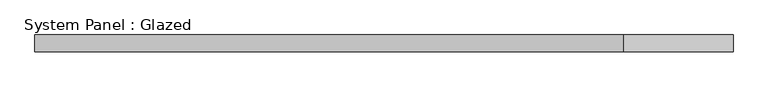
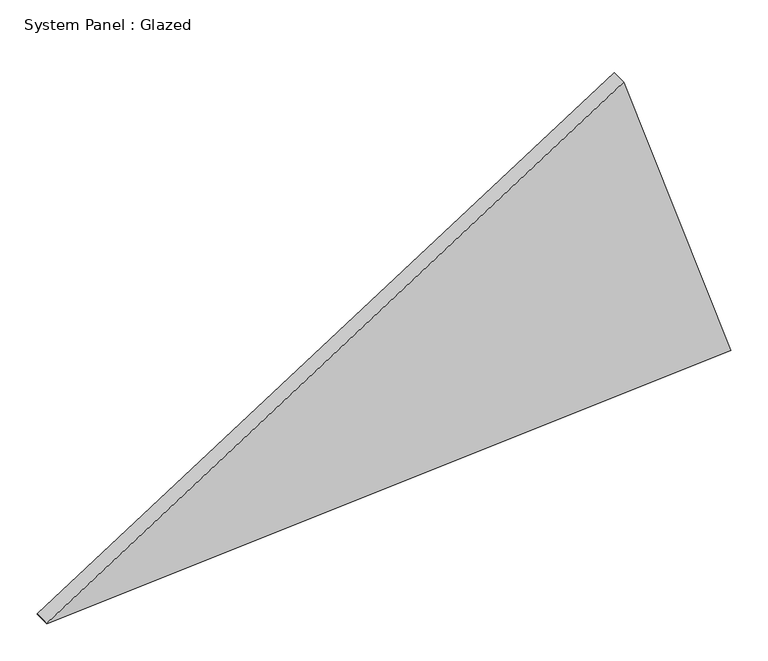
"""IFC4 building model written with IfcOpenShell, lengths in millimetres: plate geometry, System Panel : Glazed."""

from ifc_helpers import new_model, si_unit, frame, origin, place, context, project, spatial, polyline, outline, extrude, source, transform, mapped, element, save


def system_panel_glazed_8d16cfce(model_context):
    return source(origin(), model_context, "Body", "SweptSolid", [
        extrude(outline(polyline([(1.192782, -530.9360488), (0.0, -530.5386661), (77.0805744, 530.9360488), (576.1275748, 364.6754571), (1.192782, -530.9360488)])), frame((0.0, -44.45, 0.0), z_axis=(0.0, 1.0, 0.0), x_axis=(0.0, 0.0, 1.0)), (0.0, 0.0, 1.0), 25.4),
    ])


if __name__ == "__main__":
    model = new_model("IFC4")
    model_context = context("Model", 3, world=origin())
    ifc_project = project(units=[si_unit("LENGTHUNIT", "METRE", prefix="MILLI")], contexts=[model_context])
    site = spatial("IfcSite", under=ifc_project)
    building = spatial("IfcBuilding", under=site)
    placement = place(None, origin())
    system_panel_glazed_shape = system_panel_glazed_8d16cfce(model_context)
    element("IfcPlate", 1, ObjectType="System Panel : Glazed", at=placement, inside=building, context=model_context, shape_type="MappedRepresentation", body=[
        mapped(system_panel_glazed_shape, transform((0.0, 0.0, 0.0), x_axis=(1.0, 0.0, 0.0), y_axis=(0.0, 1.0, 0.0), z_axis=(0.0, 0.0, 1.0))),
    ])
    save(model, "model.ifc")
